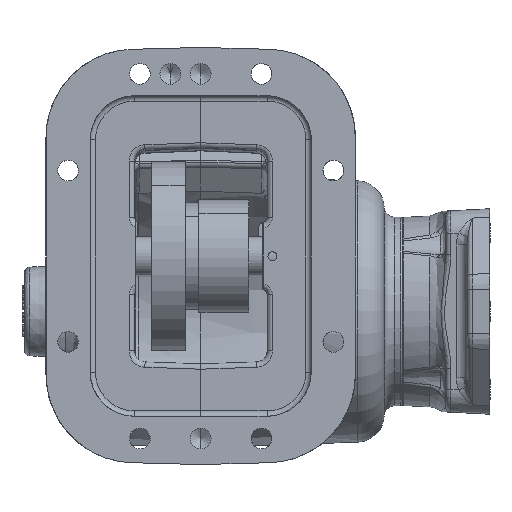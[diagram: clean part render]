
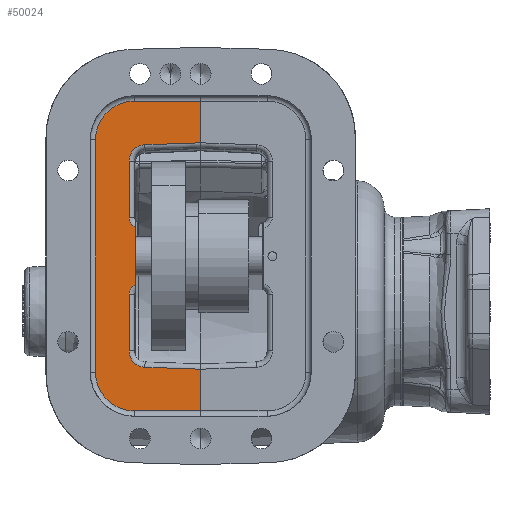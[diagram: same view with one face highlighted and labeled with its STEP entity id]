
A CAD part, front view. The second image highlights one B-rep face of the part: STEP entity #50024.
In plain terms, the highlighted planar face has unit normal (0, -1, 0).
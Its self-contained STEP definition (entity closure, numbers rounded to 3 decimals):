
#5788 = CARTESIAN_POINT ( 'NONE',  ( -10.39, -133.047, -43.129 ) ) ;
#5802 = CARTESIAN_POINT ( 'NONE',  ( -70.842, -133.047, 88.572 ) ) ;
#5827 = CARTESIAN_POINT ( 'NONE',  ( -42.468, -133.047, 85.803 ) ) ;
#5829 = CARTESIAN_POINT ( 'NONE',  ( -51.538, -133.047, 44.059 ) ) ;
#5881 = CARTESIAN_POINT ( 'NONE',  ( -70.842, -133.047, -44.778 ) ) ;
#5883 = CARTESIAN_POINT ( 'NONE',  ( -48.49, -133.047, 110.924 ) ) ;
#6080 = EDGE_CURVE ( 'NONE', #72658, #71770, #117091, .T. ) ;
#6086 = EDGE_CURVE ( 'NONE', #71770, #72660, #117112, .T. ) ;
#6092 = EDGE_CURVE ( 'NONE', #72660, #71772, #117137, .T. ) ;
#6109 = EDGE_CURVE ( 'NONE', #72616, #72668, #117171, .T. ) ;
#6122 = EDGE_CURVE ( 'NONE', #72668, #53594, #117191, .T. ) ;
#6129 = EDGE_CURVE ( 'NONE', #53594, #71731, #117205, .T. ) ;
#6245 = EDGE_CURVE ( 'NONE', #71746, #71826, #117342, .T. ) ;
#6255 = EDGE_CURVE ( 'NONE', #71826, #72171, #117368, .T. ) ;
#6259 = EDGE_CURVE ( 'NONE', #71825, #71746, #117366, .T. ) ;
#6273 = EDGE_CURVE ( 'NONE', #72471, #71825, #117396, .T. ) ;
#6282 = EDGE_CURVE ( 'NONE', #53462, #72471, #117421, .T. ) ;
#10656 = EDGE_LOOP ( 'NONE', ( #111065, #111066, #111067, #111068, #111069, #111070, #111071, #111073, #111074, #111075, #111076, #111077, #111078, #111079, #111080, #111081 ) ) ;
#23683 = CIRCLE ( 'NONE', #57276, 6.096 ) ;
#23701 = CIRCLE ( 'NONE', #57295, 6.096 ) ;
#23702 = LINE ( 'NONE', #89868, #23719 ) ;
#23712 = LINE ( 'NONE', #89872, #23715 ) ;
#23714 = LINE ( 'NONE', #89874, #23717 ) ;
#23715 = VECTOR ( 'NONE', #89873, 1000. ) ;
#23717 = VECTOR ( 'NONE', #89876, 1000. ) ;
#23719 = VECTOR ( 'NONE', #89877, 1000. ) ;
#24718 = CARTESIAN_POINT ( 'NONE',  ( -10.39, -133.047, -67.13 ) ) ;
#38761 = CARTESIAN_POINT ( 'NONE',  ( -99.29, -133.047, -95.578 ) ) ;
#38765 = PLANE ( 'NONE',  #55540 ) ;
#38767 = DIRECTION ( 'NONE',  ( 0., 1., 0. ) ) ;
#38768 = DIRECTION ( 'NONE',  ( 0., 0., -1. ) ) ;
#42733 = CARTESIAN_POINT ( 'NONE',  ( -42.468, -133.047, -42.009 ) ) ;
#50024 = ADVANCED_FACE ( 'NONE', ( #65146 ), #38765, .F. ) ;
#53462 = VERTEX_POINT ( 'NONE', #24718 ) ;
#53594 = VERTEX_POINT ( 'NONE', #42733 ) ;
#55540 = AXIS2_PLACEMENT_3D ( 'NONE', #38761, #38767, #38768 ) ;
#57276 = AXIS2_PLACEMENT_3D ( 'NONE', #89718, #89719, #89720 ) ;
#57295 = AXIS2_PLACEMENT_3D ( 'NONE', #89798, #89799, #89800 ) ;
#65146 = FACE_OUTER_BOUND ( 'NONE', #10656, .T. ) ;
#66773 = CARTESIAN_POINT ( 'NONE',  ( -48.49, -133.047, -44.778 ) ) ;
#66775 = DIRECTION ( 'NONE',  ( 0., 1., 0. ) ) ;
#66777 = DIRECTION ( 'NONE',  ( 0., 0., -1. ) ) ;
#66799 = DIRECTION ( 'NONE',  ( -1., 0., 0. ) ) ;
#66809 = CARTESIAN_POINT ( 'NONE',  ( -48.49, -133.047, -67.13 ) ) ;
#71731 = VERTEX_POINT ( 'NONE', #5788 ) ;
#71746 = VERTEX_POINT ( 'NONE', #5802 ) ;
#71770 = VERTEX_POINT ( 'NONE', #5827 ) ;
#71772 = VERTEX_POINT ( 'NONE', #5829 ) ;
#71825 = VERTEX_POINT ( 'NONE', #5881 ) ;
#71826 = VERTEX_POINT ( 'NONE', #5883 ) ;
#71926 = AXIS2_PLACEMENT_3D ( 'NONE', #111640, #111641, #111642 ) ;
#71952 = AXIS2_PLACEMENT_3D ( 'NONE', #111694, #111695, #111696 ) ;
#72015 = AXIS2_PLACEMENT_3D ( 'NONE', #112127, #112128, #112129 ) ;
#72030 = AXIS2_PLACEMENT_3D ( 'NONE', #66773, #66775, #66777 ) ;
#72171 = VERTEX_POINT ( 'NONE', #113299 ) ;
#72471 = VERTEX_POINT ( 'NONE', #113619 ) ;
#72616 = VERTEX_POINT ( 'NONE', #113738 ) ;
#72658 = VERTEX_POINT ( 'NONE', #113773 ) ;
#72660 = VERTEX_POINT ( 'NONE', #113784 ) ;
#72668 = VERTEX_POINT ( 'NONE', #113790 ) ;
#72997 = CARTESIAN_POINT ( 'NONE',  ( -47.728, -133.047, 5.386 ) ) ;
#73486 = CARTESIAN_POINT ( 'NONE',  ( -47.728, -133.047, 38.408 ) ) ;
#86311 = EDGE_CURVE ( 'NONE', #71772, #99222, #23683, .T. ) ;
#86326 = EDGE_CURVE ( 'NONE', #98616, #72616, #23701, .T. ) ;
#86340 = EDGE_CURVE ( 'NONE', #99222, #98616, #23712, .T. ) ;
#86341 = EDGE_CURVE ( 'NONE', #72658, #72171, #23714, .T. ) ;
#86342 = EDGE_CURVE ( 'NONE', #53462, #71731, #23702, .T. ) ;
#89718 = CARTESIAN_POINT ( 'NONE',  ( -45.442, -133.047, 44.059 ) ) ;
#89719 = DIRECTION ( 'NONE',  ( 0., -1., 0. ) ) ;
#89720 = DIRECTION ( 'NONE',  ( 0., 0., -1. ) ) ;
#89798 = CARTESIAN_POINT ( 'NONE',  ( -45.442, -133.047, -0.265 ) ) ;
#89799 = DIRECTION ( 'NONE',  ( 0., -1., 0. ) ) ;
#89800 = DIRECTION ( 'NONE',  ( 0., 0., -1. ) ) ;
#89868 = CARTESIAN_POINT ( 'NONE',  ( -10.39, -133.047, -95.578 ) ) ;
#89872 = CARTESIAN_POINT ( 'NONE',  ( -47.728, -133.047, -95.578 ) ) ;
#89873 = DIRECTION ( 'NONE',  ( 0., 0., -1. ) ) ;
#89874 = CARTESIAN_POINT ( 'NONE',  ( -10.39, -133.047, -95.578 ) ) ;
#89876 = DIRECTION ( 'NONE',  ( 0., 0., 1. ) ) ;
#89877 = DIRECTION ( 'NONE',  ( 0., 0., 1. ) ) ;
#98616 = VERTEX_POINT ( 'NONE', #72997 ) ;
#99222 = VERTEX_POINT ( 'NONE', #73486 ) ;
#111065 = ORIENTED_EDGE ( 'NONE', *, *, #86340, .F. ) ;
#111066 = ORIENTED_EDGE ( 'NONE', *, *, #86311, .F. ) ;
#111067 = ORIENTED_EDGE ( 'NONE', *, *, #6092, .F. ) ;
#111068 = ORIENTED_EDGE ( 'NONE', *, *, #6086, .F. ) ;
#111069 = ORIENTED_EDGE ( 'NONE', *, *, #6080, .F. ) ;
#111070 = ORIENTED_EDGE ( 'NONE', *, *, #86341, .T. ) ;
#111071 = ORIENTED_EDGE ( 'NONE', *, *, #6255, .F. ) ;
#111073 = ORIENTED_EDGE ( 'NONE', *, *, #6245, .F. ) ;
#111074 = ORIENTED_EDGE ( 'NONE', *, *, #6259, .F. ) ;
#111075 = ORIENTED_EDGE ( 'NONE', *, *, #6273, .F. ) ;
#111076 = ORIENTED_EDGE ( 'NONE', *, *, #6282, .F. ) ;
#111077 = ORIENTED_EDGE ( 'NONE', *, *, #86342, .T. ) ;
#111078 = ORIENTED_EDGE ( 'NONE', *, *, #6129, .F. ) ;
#111079 = ORIENTED_EDGE ( 'NONE', *, *, #6122, .F. ) ;
#111080 = ORIENTED_EDGE ( 'NONE', *, *, #6109, .F. ) ;
#111081 = ORIENTED_EDGE ( 'NONE', *, *, #86326, .F. ) ;
#111621 = CARTESIAN_POINT ( 'NONE',  ( -42.468, -133.047, 85.803 ) ) ;
#111622 = DIRECTION ( 'NONE',  ( -0.999, 0., -0.035 ) ) ;
#111640 = CARTESIAN_POINT ( 'NONE',  ( -42.14, -133.047, 76.41 ) ) ;
#111641 = DIRECTION ( 'NONE',  ( 0., -1., 0. ) ) ;
#111642 = DIRECTION ( 'NONE',  ( 0., 0., -1. ) ) ;
#111654 = CARTESIAN_POINT ( 'NONE',  ( -51.538, -133.047, 44.059 ) ) ;
#111655 = DIRECTION ( 'NONE',  ( 0., 0., -1. ) ) ;
#111666 = DIRECTION ( 'NONE',  ( 0., 0., -1. ) ) ;
#111671 = CARTESIAN_POINT ( 'NONE',  ( -51.538, -133.047, -32.617 ) ) ;
#111694 = CARTESIAN_POINT ( 'NONE',  ( -42.14, -133.047, -32.617 ) ) ;
#111695 = DIRECTION ( 'NONE',  ( 0., -1., 0. ) ) ;
#111696 = DIRECTION ( 'NONE',  ( 0., 0., -1. ) ) ;
#111703 = CARTESIAN_POINT ( 'NONE',  ( -10.497, -133.047, -43.125 ) ) ;
#111704 = DIRECTION ( 'NONE',  ( 0.999, 0., -0.035 ) ) ;
#112127 = CARTESIAN_POINT ( 'NONE',  ( -48.49, -133.047, 88.572 ) ) ;
#112128 = DIRECTION ( 'NONE',  ( 0., 1., 0. ) ) ;
#112129 = DIRECTION ( 'NONE',  ( 0., 0., -1. ) ) ;
#112130 = DIRECTION ( 'NONE',  ( 0., 0., 1. ) ) ;
#112142 = CARTESIAN_POINT ( 'NONE',  ( -10.39, -133.047, 110.924 ) ) ;
#112143 = DIRECTION ( 'NONE',  ( 1., 0., 0. ) ) ;
#112145 = CARTESIAN_POINT ( 'NONE',  ( -70.842, -133.047, 88.572 ) ) ;
#113299 = CARTESIAN_POINT ( 'NONE',  ( -10.39, -133.047, 110.924 ) ) ;
#113619 = CARTESIAN_POINT ( 'NONE',  ( -48.49, -133.047, -67.13 ) ) ;
#113738 = CARTESIAN_POINT ( 'NONE',  ( -51.538, -133.047, -0.265 ) ) ;
#113773 = CARTESIAN_POINT ( 'NONE',  ( -10.39, -133.047, 86.923 ) ) ;
#113784 = CARTESIAN_POINT ( 'NONE',  ( -51.538, -133.047, 76.41 ) ) ;
#113790 = CARTESIAN_POINT ( 'NONE',  ( -51.538, -133.047, -32.617 ) ) ;
#117091 = LINE ( 'NONE', #111621, #117097 ) ;
#117097 = VECTOR ( 'NONE', #111622, 1000. ) ;
#117112 = CIRCLE ( 'NONE', #71926, 9.398 ) ;
#117137 = LINE ( 'NONE', #111654, #117146 ) ;
#117146 = VECTOR ( 'NONE', #111655, 1000. ) ;
#117171 = LINE ( 'NONE', #111671, #117176 ) ;
#117176 = VECTOR ( 'NONE', #111666, 1000. ) ;
#117191 = CIRCLE ( 'NONE', #71952, 9.398 ) ;
#117205 = LINE ( 'NONE', #111703, #117214 ) ;
#117214 = VECTOR ( 'NONE', #111704, 1000. ) ;
#117342 = CIRCLE ( 'NONE', #72015, 22.352 ) ;
#117366 = LINE ( 'NONE', #112145, #117387 ) ;
#117368 = LINE ( 'NONE', #112142, #117376 ) ;
#117376 = VECTOR ( 'NONE', #112143, 1000. ) ;
#117387 = VECTOR ( 'NONE', #112130, 1000. ) ;
#117396 = CIRCLE ( 'NONE', #72030, 22.352 ) ;
#117421 = LINE ( 'NONE', #66809, #117436 ) ;
#117436 = VECTOR ( 'NONE', #66799, 1000. ) ;
